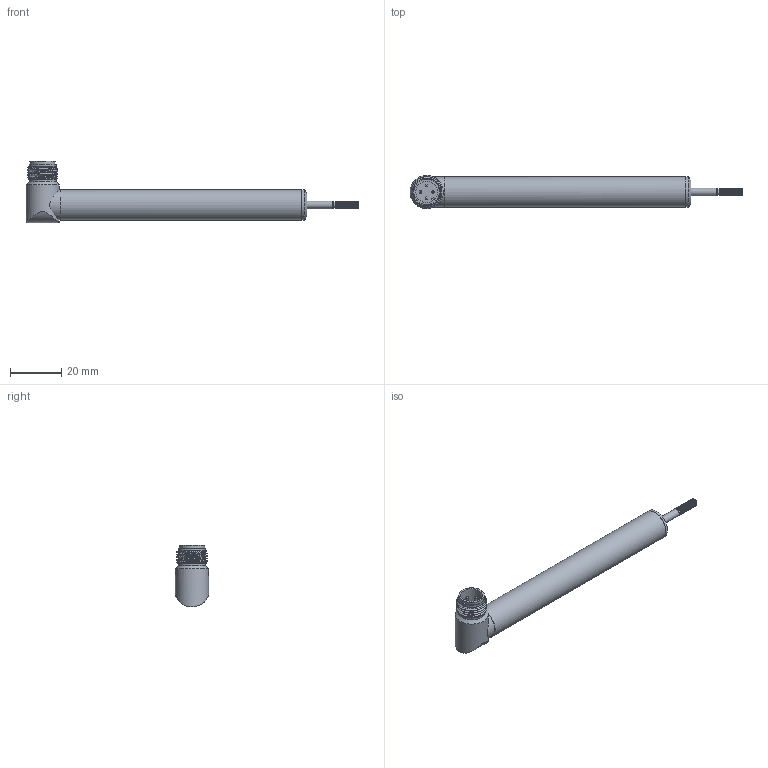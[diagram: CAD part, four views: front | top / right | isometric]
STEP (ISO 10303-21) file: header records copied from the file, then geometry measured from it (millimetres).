
FILE_DESCRIPTION( ( 'STEP AP214' ), '1' );
FILE_NAME( 'N:/Engineering/CAD_Solid/LVDT/SM/Kunden-3D-Modell/SM25-SG-SR.stp', '2011-12-12T13:37:41', ( ' ' ), ( ' ' ), 'XStep 1.0', ' ', ' ' );
FILE_SCHEMA( ( 'CONFIG_CONTROL_DESIGN) ( )' ) );
Length unit declared in the file: metre
Products named in the file (3): 1; 2; 3
Bounding box: 130 x 13 x 24.1 mm (x, y, z)
Surface area: 5991.5 mm2 (no closed solid volume)
Topology: 0 solids, 54 shells, 54 faces, 216 edges, 194 vertices
Faces by surface type: cylinder 21, plane 15, bspline 9, cone 8, torus 1
Full cylindrical faces by diameter (mm): 1 x4, 2.4 x1, 3 x1, 8.5 x1, 10 x1, 10.6 x2, 11.8 x1, 12 x2, 13 x1
Entity records: 6787 total; most frequent: CARTESIAN_POINT 4813, DIRECTION 320, ORIENTED_EDGE 183, EDGE_CURVE 183, VERTEX_POINT 183, AXIS2_PLACEMENT_3D 145, CIRCLE 97, FACE_BOUND 90
